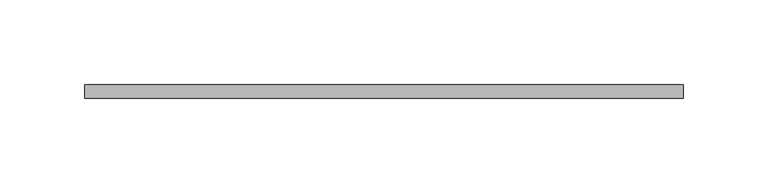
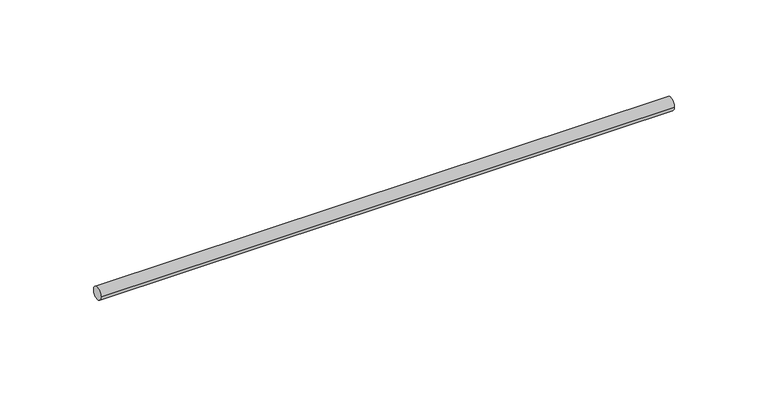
"""IFC4 building model written with IfcOpenShell, lengths in millimetres: valve geometry, Superfix Threaded Rod (used for clamps) : Threaded Rod  Extra  - 1000 mm (used for clamps)."""

from ifc_helpers import new_model, si_unit, point, frame, origin, origin_2d, place, context, project, spatial, circle_curve, trimmed, segment, composite_curve, outline, extrude, source, transform, mapped, element, save


def valve_7771d33f(model_context):
    return source(origin(), model_context, "Body", "SweptSolid", [
        extrude(outline(composite_curve([segment(trimmed(circle_curve(origin_2d(), 4.0), [point((-4.0, 0.0))], [point((4.0, 0.0))], False, "CARTESIAN"), True, "CONTINUOUS"), segment(trimmed(circle_curve(origin_2d(), 4.0), [point((4.0, 0.0))], [point((-4.0, 0.0))], False, "CARTESIAN"), True, "CONTINUOUS")], self_intersect=False)), frame((-10.0, 0.0, 0.0), z_axis=(1.0, 0.0, 0.0), x_axis=(0.0, 1.0, 0.0)), (0.0, 0.0, 1.0), 354.0002332),
    ])


if __name__ == "__main__":
    model = new_model("IFC4")
    model_context = context("Model", 3, world=origin())
    ifc_project = project(units=[si_unit("LENGTHUNIT", "METRE", prefix="MILLI")], contexts=[model_context])
    site = spatial("IfcSite", under=ifc_project)
    building = spatial("IfcBuilding", under=site)
    placement = place(None, origin())
    valve_shape = valve_7771d33f(model_context)
    element("IfcValve", 1, ObjectType="Superfix Threaded Rod (used for clamps) : Threaded Rod  Extra  - 1000 mm (used for clamps)", at=placement, inside=building, context=model_context, shape_type="MappedRepresentation", body=[
        mapped(valve_shape, transform((0.0, 0.0, 0.0), x_axis=(1.0, 0.0, 0.0), y_axis=(0.0, 1.0, 0.0), z_axis=(0.0, 0.0, 1.0))),
    ])
    save(model, "model.ifc")
